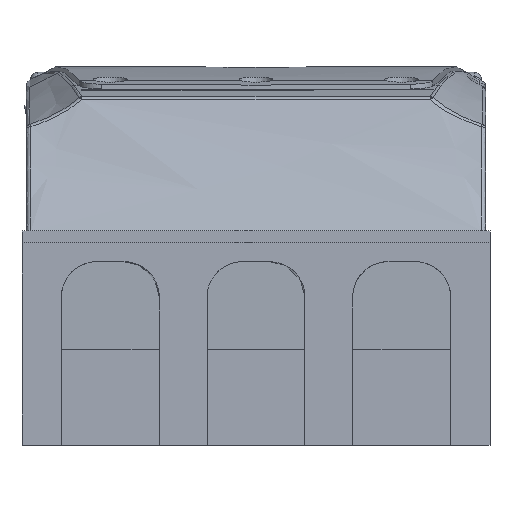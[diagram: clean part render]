
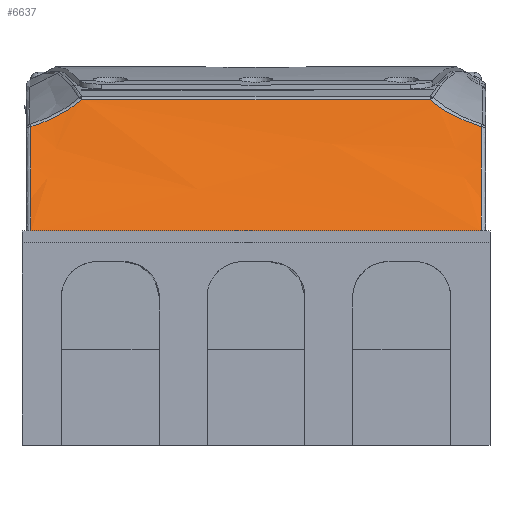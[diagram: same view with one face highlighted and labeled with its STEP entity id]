
A CAD part, left-side view. The second image highlights one B-rep face of the part: STEP entity #6637.
In plain terms, the highlighted face is a extrusion surface.
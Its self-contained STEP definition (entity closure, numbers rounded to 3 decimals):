
#3720=SURFACE_OF_LINEAR_EXTRUSION('',#4690,#27718);
#4690=ELLIPSE('',#29820,35.,12.5);
#6637=ADVANCED_FACE('',(#8816),#3720,.F.);
#8816=FACE_OUTER_BOUND('',#10237,.T.);
#10237=EDGE_LOOP('',(#14968,#14969,#14970,#14971,#14972,#14973));
#11243=B_SPLINE_CURVE_WITH_KNOTS('',3,(#41572,#41573,#41574,#41575,#41576,
#41577),.UNSPECIFIED.,.F.,.F.,(4,2,4),(0.,0.5,1.),.UNSPECIFIED.);
#11604=B_SPLINE_CURVE_WITH_KNOTS('',3,(#51740,#51741,#51742,#51743,#51744,
#51745),.UNSPECIFIED.,.F.,.F.,(4,2,4),(0.,0.5,1.),.UNSPECIFIED.);
#11623=B_SPLINE_CURVE_WITH_KNOTS('',3,(#52216,#52217,#52218,#52219,#52220,
#52221),.UNSPECIFIED.,.F.,.F.,(4,2,4),(0.,0.5,1.),.UNSPECIFIED.);
#11661=B_SPLINE_CURVE_WITH_KNOTS('',3,(#53421,#53422,#53423,#53424,#53425,
#53426),.UNSPECIFIED.,.F.,.F.,(4,2,4),(0.,0.5,1.),.UNSPECIFIED.);
#14968=ORIENTED_EDGE('',*,*,#23846,.T.);
#14969=ORIENTED_EDGE('',*,*,#23791,.T.);
#14970=ORIENTED_EDGE('',*,*,#23786,.T.);
#14971=ORIENTED_EDGE('',*,*,#22847,.T.);
#14972=ORIENTED_EDGE('',*,*,#22593,.F.);
#14973=ORIENTED_EDGE('',*,*,#23953,.T.);
#20079=VERTEX_POINT('',#40719);
#20080=VERTEX_POINT('',#40721);
#20291=VERTEX_POINT('',#41578);
#20902=VERTEX_POINT('',#51732);
#20905=VERTEX_POINT('',#51769);
#20933=VERTEX_POINT('',#52222);
#22593=EDGE_CURVE('',#20079,#20080,#25886,.T.);
#22847=EDGE_CURVE('',#20291,#20080,#11243,.T.);
#23786=EDGE_CURVE('',#20902,#20291,#11604,.T.);
#23791=EDGE_CURVE('',#20905,#20902,#26288,.T.);
#23846=EDGE_CURVE('',#20933,#20905,#11623,.T.);
#23953=EDGE_CURVE('',#20079,#20933,#11661,.T.);
#25886=LINE('',#40720,#27280);
#26288=LINE('',#51772,#27682);
#27280=VECTOR('',#32355,1.);
#27682=VECTOR('',#34159,1.);
#27718=VECTOR('',#34437,1.);
#29820=AXIS2_PLACEMENT_3D('',#53427,#34435,#34436);
#32355=DIRECTION('',(0.,1.,0.));
#34159=DIRECTION('',(0.,1.,0.));
#34435=DIRECTION('',(0.,-1.,0.));
#34436=DIRECTION('',(0.568,0.,0.823));
#34437=DIRECTION('',(0.,-1.,0.));
#40719=CARTESIAN_POINT('',(-175.043,33.,45.002));
#40720=CARTESIAN_POINT('',(-175.043,33.,45.002));
#40721=CARTESIAN_POINT('',(-175.043,135.,45.002));
#41572=CARTESIAN_POINT('',(-159.537,135.,68.653));
#41573=CARTESIAN_POINT('',(-161.463,135.,64.325));
#41574=CARTESIAN_POINT('',(-163.796,135.,60.186));
#41575=CARTESIAN_POINT('',(-168.994,135.,52.289));
#41576=CARTESIAN_POINT('',(-171.874,135.,48.515));
#41577=CARTESIAN_POINT('',(-175.043,135.,45.002));
#41578=CARTESIAN_POINT('',(-159.537,135.,68.653));
#51732=CARTESIAN_POINT('',(-157.184,123.476,74.757));
#51740=CARTESIAN_POINT('',(-157.184,123.476,74.757));
#51741=CARTESIAN_POINT('',(-157.651,125.115,73.302));
#51742=CARTESIAN_POINT('',(-158.088,126.995,72.144));
#51743=CARTESIAN_POINT('',(-158.88,130.869,70.155));
#51744=CARTESIAN_POINT('',(-159.237,132.892,69.327));
#51745=CARTESIAN_POINT('',(-159.537,135.,68.653));
#51769=CARTESIAN_POINT('',(-157.184,44.524,74.757));
#51772=CARTESIAN_POINT('',(-157.184,44.524,74.757));
#52216=CARTESIAN_POINT('',(-159.537,33.,68.653));
#52217=CARTESIAN_POINT('',(-159.237,35.107,69.326));
#52218=CARTESIAN_POINT('',(-158.878,37.144,70.159));
#52219=CARTESIAN_POINT('',(-158.08,41.044,72.166));
#52220=CARTESIAN_POINT('',(-157.649,42.892,73.308));
#52221=CARTESIAN_POINT('',(-157.184,44.524,74.757));
#52222=CARTESIAN_POINT('',(-159.537,33.,68.653));
#53421=CARTESIAN_POINT('',(-175.043,33.,45.002));
#53422=CARTESIAN_POINT('',(-171.879,33.,48.509));
#53423=CARTESIAN_POINT('',(-168.997,33.,52.283));
#53424=CARTESIAN_POINT('',(-163.796,33.,60.186));
#53425=CARTESIAN_POINT('',(-161.463,33.,64.326));
#53426=CARTESIAN_POINT('',(-159.537,33.,68.653));
#53427=CARTESIAN_POINT('',(-177.888,136.,61.55));
